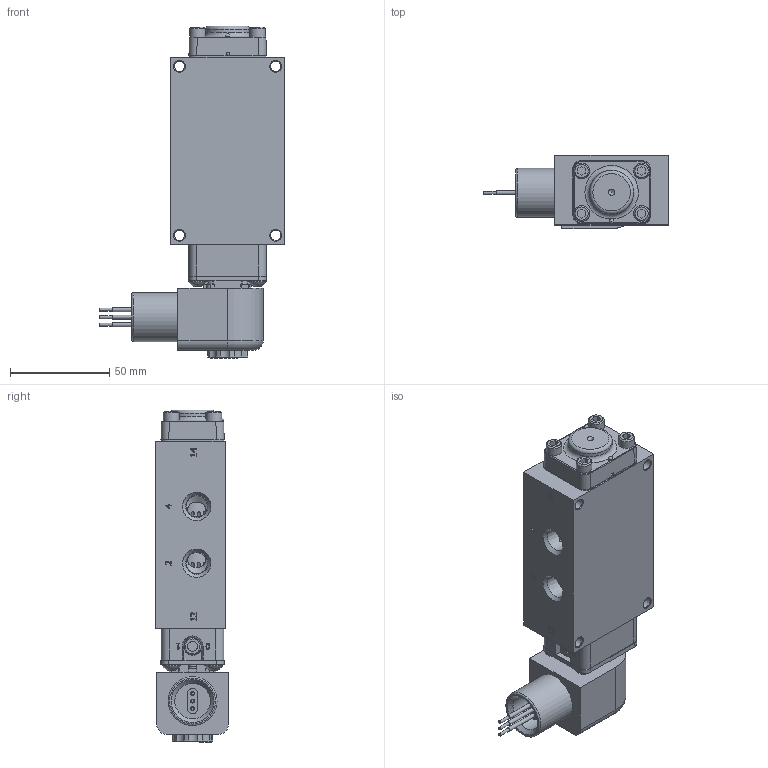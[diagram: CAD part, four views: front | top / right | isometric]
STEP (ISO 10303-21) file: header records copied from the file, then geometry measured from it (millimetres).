
FILE_DESCRIPTION(/* description */ (''),/* implementation_level */ '2;1');
FILE_NAME(/* name */ 'D:\Website Files\stp\Valves\Standard\ESO\ZESO2X.stp',/* time_stamp */ '2015-03-13T14:47:26-04:00',/* author */ ('RMcKenna'),/* organization */ (''),/* preprocessor_version */ 'ST-DEVELOPER v15.6',/* originating_system */ 'Autodesk Inventor 2015',/* authorisation */ '');
FILE_SCHEMA (('AUTOMOTIVE_DESIGN { 1 0 10303 214 3 1 1 }'));
Length unit declared in the file: centimetre
Products named in the file (1): Part3
Bounding box: 92.98 x 36.57 x 166.99 mm (x, y, z)
Volume: 240178.1 mm3; surface area: 74677.1 mm2
Topology: 1 solids, 19 shells, 1563 faces, 3842 edges, 2442 vertices
Faces by surface type: plane 713, cylinder 374, cone 266, torus 118, bspline 87, sphere 5
Full cylindrical faces by diameter (mm): 1.3 x1, 1.397 x1, 1.5 x2, 1.524 x3, 2.007 x2, 2.032 x11, 2.35 x4, 2.381 x1, 2.8 x1, 2.819 x1, 3 x4, 3.048 x1, 3.175 x2, 3.4 x1, 3.683 x9, 4.191 x2, 4.305 x1, 4.394 x1, 4.826 x8, 4.953 x1, 5.15 x4, 5.156 x12, 5.5 x1, 6.553 x1, 6.9 x1, 7.188 x1, 7.75 x1, 7.938 x4, 8 x2, 8.001 x1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
Entity records: 48919 total; most frequent: CARTESIAN_POINT 12233, DIRECTION 7210, ORIENTED_EDGE 6946, EDGE_CURVE 3471, AXIS2_PLACEMENT_3D 2749, VERTEX_POINT 2336, EDGE_LOOP 2013, LINE 1712
